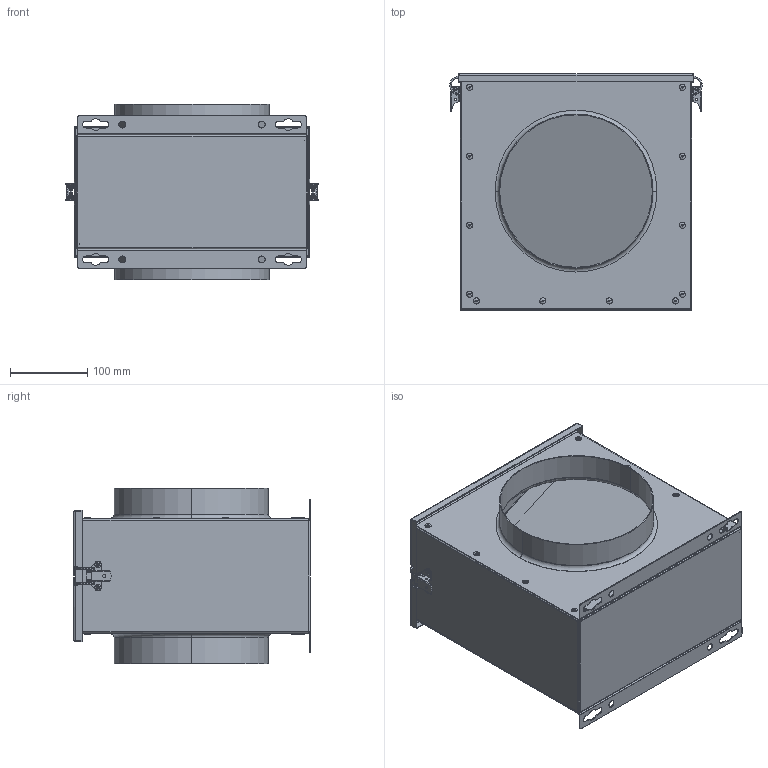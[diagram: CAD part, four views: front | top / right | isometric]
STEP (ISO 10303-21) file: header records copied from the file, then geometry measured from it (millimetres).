
FILE_DESCRIPTION (( 'STEP AP203' ), '1' );
FILE_NAME ('112832-01_FV200_step.step', '2020-08-26T10:49:27', ( '' ), ( '' ), 'SwSTEP 2.0', 'SolidWorks 2017', '' );
FILE_SCHEMA (( 'CONFIG_CONTROL_DESIGN' ));
Length unit declared in the file: millimetre
Products named in the file (1): 112832-01_FV200_step
Bounding box: 327.58 x 307 x 228 mm (x, y, z)
Surface area: 979247.6 mm2 (no closed solid volume)
Topology: 0 solids, 52 shells, 556 faces, 1685 edges, 1124 vertices
Faces by surface type: cylinder 272, plane 154, torus 78, bspline 52
Entity records: 20431 total; most frequent: CARTESIAN_POINT 4958, DIRECTION 3533, ORIENTED_EDGE 2760, EDGE_CURVE 1685, AXIS2_PLACEMENT_3D 1403, VERTEX_POINT 1124, CIRCLE 898, VECTOR 727
